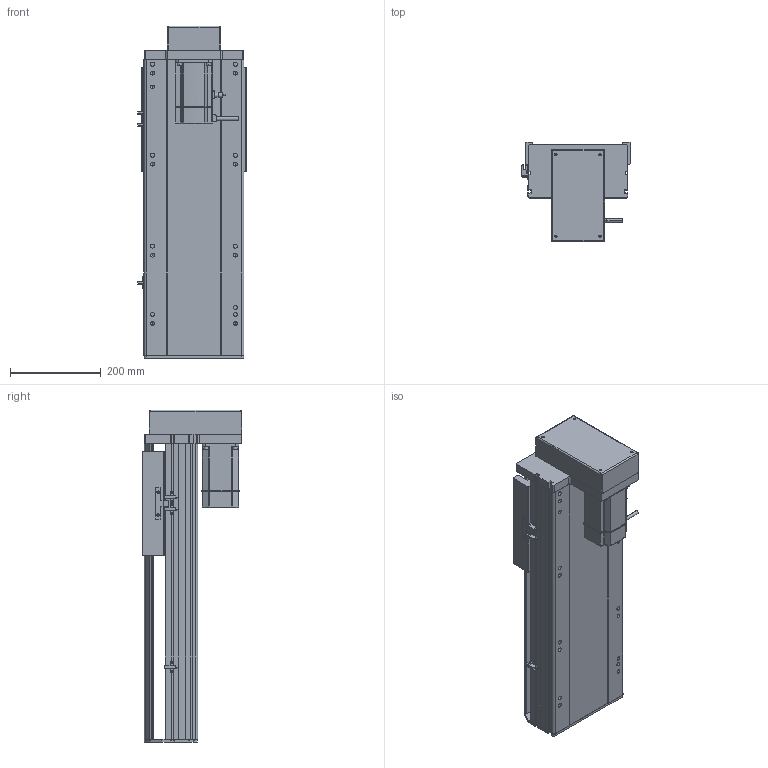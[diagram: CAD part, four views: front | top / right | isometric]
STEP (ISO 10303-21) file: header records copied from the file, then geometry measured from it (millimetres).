
FILE_DESCRIPTION (( 'STEP AP214' ), '1' );
FILE_NAME ('RTH22-XX-350-M-M75-C4.STEP', '2025-10-24T11:07:06', ( 'Microsoft' ), ( 'Microsoft' ), 'SwSTEP 2.0', 'SolidWorks 2018', '' );
FILE_SCHEMA (( 'AUTOMOTIVE_DESIGN' ));
Length unit declared in the file: millimetre
Products named in the file (10): N_RTH22-M-007奻裔^RTH22-XX-XX-M-M75-C4; RTH22-XX-350-M-M75-C4; N_OMRON EE-SX672 传感器^RTH22-XX-XX-M-M75-C4; N_RTH22-L-004-SFS25賑釱^RTH22-XX-XX-M-M75-C4; N_RTH22-GY-013外置感应片^RTH22-XX-XX-M-M75-C4; N_750W萇儂^RTH22-XX-XX-M-M75-C4; N_RTH22-GY-001耜裔^RTH22-XX-XX-M-M75-C4; N_RTH22-M-018裔赽^RTH22-XX-XX-M-M75-C4; N_RTH22-L-011菁釱^RTH22-XX-XX-M-M75-C4; N_RTH22-M-008-P75萇儂啣^RTH22-XX-XX-M-M75-C4
Assembly tree (11 placements, depth 2):
  RTH22-XX-350-M-M75-C4
    N_RTH22-L-011菁釱^RTH22-XX-XX-M-M75-C4
    N_RTH22-GY-001耜裔^RTH22-XX-XX-M-M75-C4
    N_750W萇儂^RTH22-XX-XX-M-M75-C4
    N_RTH22-M-008-P75萇儂啣^RTH22-XX-XX-M-M75-C4
    N_RTH22-M-007奻裔^RTH22-XX-XX-M-M75-C4
    N_RTH22-M-018裔赽^RTH22-XX-XX-M-M75-C4
    N_OMRON EE-SX672 传感器^RTH22-XX-XX-M-M75-C4  x3
    N_RTH22-GY-013外置感应片^RTH22-XX-XX-M-M75-C4
    N_RTH22-L-004-SFS25賑釱^RTH22-XX-XX-M-M75-C4
Bounding box: 238.5 x 218.5 x 729.7 mm (x, y, z)
Volume: 11246304.6 mm3; surface area: 1313810.7 mm2
Topology: 11 solids, 11 shells, 1569 faces, 4280 edges, 2765 vertices
Faces by surface type: plane 801, cylinder 439, bspline 279, cone 50
Entity records: 39025 total; most frequent: CARTESIAN_POINT 11920, ORIENTED_EDGE 5552, DIRECTION 5190, EDGE_CURVE 2776, VERTEX_POINT 1801, VECTOR 1752, LINE 1752, AXIS2_PLACEMENT_3D 1719
